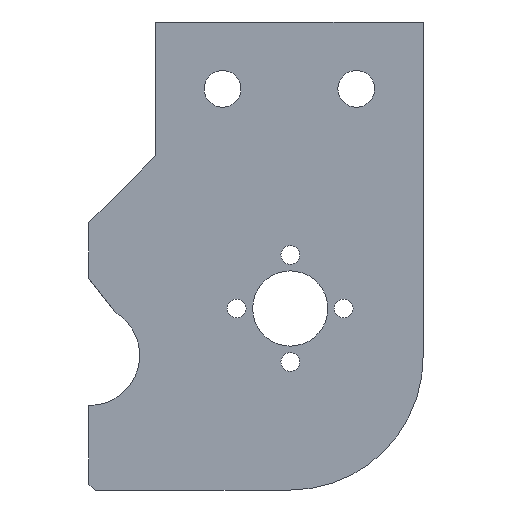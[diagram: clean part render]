
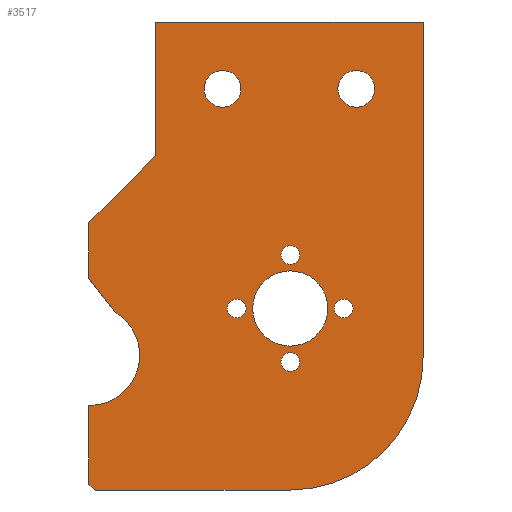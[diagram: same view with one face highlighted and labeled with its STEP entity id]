
A CAD part, front view. The second image highlights one B-rep face of the part: STEP entity #3517.
In plain terms, the highlighted planar face has unit normal (0, -1, 0).
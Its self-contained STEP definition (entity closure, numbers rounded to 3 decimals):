
#369=FACE_BOUND('',#810,.T.);
#370=FACE_BOUND('',#811,.T.);
#371=FACE_BOUND('',#812,.T.);
#372=FACE_BOUND('',#813,.T.);
#373=FACE_BOUND('',#814,.T.);
#374=FACE_BOUND('',#815,.T.);
#375=FACE_BOUND('',#816,.T.);
#398=CIRCLE('',#3624,2.75);
#400=CIRCLE('',#3627,2.75);
#401=CIRCLE('',#3630,1.4);
#402=CIRCLE('',#3632,1.4);
#403=CIRCLE('',#3634,5.625);
#404=CIRCLE('',#3636,1.4);
#405=CIRCLE('',#3638,1.4);
#406=CIRCLE('',#3640,19.88);
#407=CIRCLE('',#3645,7.5);
#594=FACE_OUTER_BOUND('',#809,.T.);
#809=EDGE_LOOP('',(#3236,#3237,#3238,#3239,#3240,#3241,#3242,#3243,#3244,
#3245,#3246));
#810=EDGE_LOOP('',(#3247));
#811=EDGE_LOOP('',(#3248));
#812=EDGE_LOOP('',(#3249));
#813=EDGE_LOOP('',(#3250));
#814=EDGE_LOOP('',(#3251));
#815=EDGE_LOOP('',(#3252));
#816=EDGE_LOOP('',(#3253));
#1049=LINE('',#6819,#1327);
#1051=LINE('',#6824,#1329);
#1082=LINE('',#6920,#1360);
#1084=LINE('',#6924,#1362);
#1086=LINE('',#6928,#1364);
#1088=LINE('',#6934,#1366);
#1091=LINE('',#6940,#1369);
#1094=LINE('',#6946,#1372);
#1097=LINE('',#6950,#1375);
#1327=VECTOR('',#4006,10.);
#1329=VECTOR('',#4012,10.);
#1360=VECTOR('',#4135,10.);
#1362=VECTOR('',#4139,10.);
#1364=VECTOR('',#4143,10.);
#1366=VECTOR('',#4151,10.);
#1369=VECTOR('',#4156,10.);
#1372=VECTOR('',#4161,10.);
#1375=VECTOR('',#4166,10.);
#1689=VERTEX_POINT('',#6816);
#1690=VERTEX_POINT('',#6818);
#1691=VERTEX_POINT('',#6823);
#1700=VERTEX_POINT('',#6882);
#1702=VERTEX_POINT('',#6888);
#1703=VERTEX_POINT('',#6893);
#1704=VERTEX_POINT('',#6897);
#1705=VERTEX_POINT('',#6901);
#1706=VERTEX_POINT('',#6905);
#1707=VERTEX_POINT('',#6909);
#1708=VERTEX_POINT('',#6913);
#1709=VERTEX_POINT('',#6915);
#1710=VERTEX_POINT('',#6919);
#1711=VERTEX_POINT('',#6923);
#1712=VERTEX_POINT('',#6927);
#1713=VERTEX_POINT('',#6933);
#1715=VERTEX_POINT('',#6939);
#1717=VERTEX_POINT('',#6945);
#2166=EDGE_CURVE('',#1689,#1690,#1049,.T.);
#2169=EDGE_CURVE('',#1691,#1690,#1051,.T.);
#2198=EDGE_CURVE('',#1700,#1700,#398,.T.);
#2201=EDGE_CURVE('',#1702,#1702,#400,.T.);
#2202=EDGE_CURVE('',#1703,#1703,#401,.F.);
#2204=EDGE_CURVE('',#1704,#1704,#402,.F.);
#2206=EDGE_CURVE('',#1705,#1705,#403,.T.);
#2208=EDGE_CURVE('',#1706,#1706,#404,.F.);
#2210=EDGE_CURVE('',#1707,#1707,#405,.F.);
#2213=EDGE_CURVE('',#1709,#1708,#406,.T.);
#2215=EDGE_CURVE('',#1710,#1709,#1082,.T.);
#2217=EDGE_CURVE('',#1711,#1710,#1084,.T.);
#2219=EDGE_CURVE('',#1712,#1711,#1086,.T.);
#2221=EDGE_CURVE('',#1689,#1712,#407,.T.);
#2222=EDGE_CURVE('',#1713,#1691,#1088,.T.);
#2225=EDGE_CURVE('',#1715,#1713,#1091,.T.);
#2228=EDGE_CURVE('',#1717,#1715,#1094,.T.);
#2231=EDGE_CURVE('',#1708,#1717,#1097,.T.);
#3236=ORIENTED_EDGE('',*,*,#2166,.F.);
#3237=ORIENTED_EDGE('',*,*,#2221,.T.);
#3238=ORIENTED_EDGE('',*,*,#2219,.T.);
#3239=ORIENTED_EDGE('',*,*,#2217,.T.);
#3240=ORIENTED_EDGE('',*,*,#2215,.T.);
#3241=ORIENTED_EDGE('',*,*,#2213,.T.);
#3242=ORIENTED_EDGE('',*,*,#2231,.T.);
#3243=ORIENTED_EDGE('',*,*,#2228,.T.);
#3244=ORIENTED_EDGE('',*,*,#2225,.T.);
#3245=ORIENTED_EDGE('',*,*,#2222,.T.);
#3246=ORIENTED_EDGE('',*,*,#2169,.T.);
#3247=ORIENTED_EDGE('',*,*,#2198,.T.);
#3248=ORIENTED_EDGE('',*,*,#2201,.T.);
#3249=ORIENTED_EDGE('',*,*,#2210,.T.);
#3250=ORIENTED_EDGE('',*,*,#2208,.T.);
#3251=ORIENTED_EDGE('',*,*,#2206,.T.);
#3252=ORIENTED_EDGE('',*,*,#2204,.T.);
#3253=ORIENTED_EDGE('',*,*,#2202,.T.);
#3329=PLANE('',#3650);
#3517=ADVANCED_FACE('',(#594,#369,#370,#371,#372,#373,#374,#375),#3329,
 .T.);
#3624=AXIS2_PLACEMENT_3D('',#6884,#4091,#4092);
#3627=AXIS2_PLACEMENT_3D('',#6890,#4098,#4099);
#3630=AXIS2_PLACEMENT_3D('',#6894,#4104,#4105);
#3632=AXIS2_PLACEMENT_3D('',#6898,#4109,#4110);
#3634=AXIS2_PLACEMENT_3D('',#6902,#4114,#4115);
#3636=AXIS2_PLACEMENT_3D('',#6906,#4119,#4120);
#3638=AXIS2_PLACEMENT_3D('',#6910,#4124,#4125);
#3640=AXIS2_PLACEMENT_3D('',#6916,#4130,#4131);
#3645=AXIS2_PLACEMENT_3D('',#6931,#4147,#4148);
#3650=AXIS2_PLACEMENT_3D('',#6951,#4167,#4168);
#4006=DIRECTION('',(-0.611,0.,0.792));
#4012=DIRECTION('',(0.,0.,-1.));
#4091=DIRECTION('center_axis',(0.,1.,0.));
#4092=DIRECTION('ref_axis',(1.,0.,0.));
#4098=DIRECTION('center_axis',(0.,1.,0.));
#4099=DIRECTION('ref_axis',(1.,0.,0.));
#4104=DIRECTION('center_axis',(0.,-1.,0.));
#4105=DIRECTION('ref_axis',(1.,0.,0.));
#4109=DIRECTION('center_axis',(0.,-1.,0.));
#4110=DIRECTION('ref_axis',(1.,0.,0.));
#4114=DIRECTION('center_axis',(0.,1.,0.));
#4115=DIRECTION('ref_axis',(1.,0.,0.));
#4119=DIRECTION('center_axis',(0.,-1.,0.));
#4120=DIRECTION('ref_axis',(1.,0.,0.));
#4124=DIRECTION('center_axis',(0.,-1.,0.));
#4125=DIRECTION('ref_axis',(1.,0.,0.));
#4130=DIRECTION('center_axis',(0.,-1.,0.));
#4131=DIRECTION('ref_axis',(0.,0.,-1.));
#4135=DIRECTION('',(1.,0.,0.));
#4139=DIRECTION('',(0.76,0.,-0.65));
#4143=DIRECTION('',(0.,0.,-1.));
#4147=DIRECTION('center_axis',(0.,1.,0.));
#4148=DIRECTION('ref_axis',(1.,0.,0.));
#4151=DIRECTION('',(-0.708,0.,-0.706));
#4156=DIRECTION('',(0.,0.,-1.));
#4161=DIRECTION('',(-1.,0.,0.));
#4166=DIRECTION('',(0.,0.,1.));
#4167=DIRECTION('center_axis',(0.,-1.,0.));
#4168=DIRECTION('ref_axis',(1.,0.,0.));
#6816=CARTESIAN_POINT('',(-186.131,174.,-293.366));
#6818=CARTESIAN_POINT('',(-190.,174.,-288.351));
#6819=CARTESIAN_POINT('',(-215.314,174.,-255.537));
#6823=CARTESIAN_POINT('',(-190.,174.,-280.));
#6824=CARTESIAN_POINT('',(-190.,174.,-280.));
#6882=CARTESIAN_POINT('',(-172.75,174.,-260.));
#6884=CARTESIAN_POINT('Origin',(-170.,174.,-260.));
#6888=CARTESIAN_POINT('',(-152.75,174.,-260.));
#6890=CARTESIAN_POINT('Origin',(-150.,174.,-260.));
#6893=CARTESIAN_POINT('',(-161.28,174.,-300.854));
#6894=CARTESIAN_POINT('Origin',(-159.88,174.,-300.854));
#6897=CARTESIAN_POINT('',(-161.28,174.,-284.85));
#6898=CARTESIAN_POINT('Origin',(-159.88,174.,-284.85));
#6901=CARTESIAN_POINT('',(-165.505,174.,-292.851));
#6902=CARTESIAN_POINT('Origin',(-159.88,174.,-292.851));
#6905=CARTESIAN_POINT('',(-169.28,174.,-292.851));
#6906=CARTESIAN_POINT('Origin',(-167.88,174.,-292.851));
#6909=CARTESIAN_POINT('',(-153.278,174.,-292.851));
#6910=CARTESIAN_POINT('Origin',(-151.878,174.,-292.851));
#6913=CARTESIAN_POINT('',(-140.,174.,-300.));
#6915=CARTESIAN_POINT('',(-159.88,174.,-320.));
#6916=CARTESIAN_POINT('Origin',(-159.88,174.,-300.12));
#6919=CARTESIAN_POINT('',(-189.,174.,-320.));
#6920=CARTESIAN_POINT('',(-190.,174.,-320.));
#6923=CARTESIAN_POINT('',(-190.,174.,-319.144));
#6924=CARTESIAN_POINT('',(-196.024,174.,-313.988));
#6927=CARTESIAN_POINT('',(-190.,174.,-307.349));
#6928=CARTESIAN_POINT('',(-190.,174.,-307.349));
#6931=CARTESIAN_POINT('Origin',(-189.9,174.,-299.85));
#6933=CARTESIAN_POINT('',(-180.,174.,-270.02));
#6934=CARTESIAN_POINT('',(-180.,174.,-270.02));
#6939=CARTESIAN_POINT('',(-180.,174.,-250.));
#6940=CARTESIAN_POINT('',(-180.,174.,-300.));
#6945=CARTESIAN_POINT('',(-140.,174.,-250.));
#6946=CARTESIAN_POINT('',(-180.,174.,-250.));
#6950=CARTESIAN_POINT('',(-140.,174.,-250.));
#6951=CARTESIAN_POINT('Origin',(-172.464,174.,-166.137));
